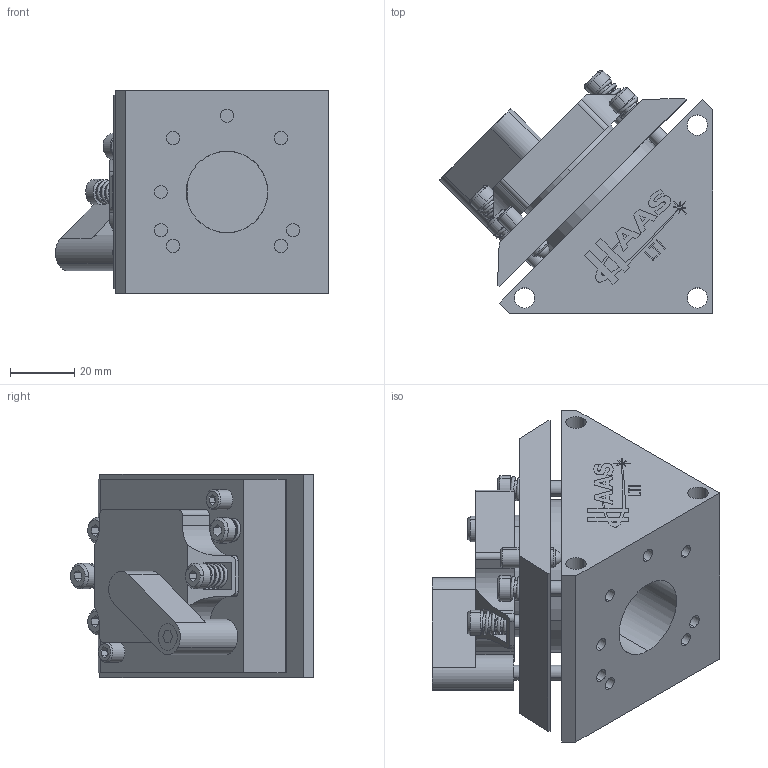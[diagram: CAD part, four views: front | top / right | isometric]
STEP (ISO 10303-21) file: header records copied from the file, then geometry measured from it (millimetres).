
FILE_DESCRIPTION (( 'STEP AP214' ), '1' );
FILE_NAME ('BBK-25-38-063-NI.STEP', '2016-11-07T15:06:02', ( '' ), ( '' ), 'SwSTEP 2.0', 'SolidWorks 2016', '' );
FILE_SCHEMA (( 'AUTOMOTIVE_DESIGN' ));
Length unit declared in the file: inch
Products named in the file (1): BBK-25-38-063-NI
Bounding box: 85.36 x 75.86 x 63.5 mm (x, y, z)
Surface area: 52303.6 mm2 (no closed solid volume)
Topology: 0 solids, 7 shells, 477 faces, 1351 edges, 957 vertices
Faces by surface type: cylinder 244, plane 189, cone 32, bspline 10, sphere 2
Entity records: 55822 total; most frequent: CARTESIAN_POINT 43644, ORIENTED_EDGE 2625, DIRECTION 2327, EDGE_CURVE 1340, VERTEX_POINT 953, AXIS2_PLACEMENT_3D 838, VECTOR 651, LINE 651
